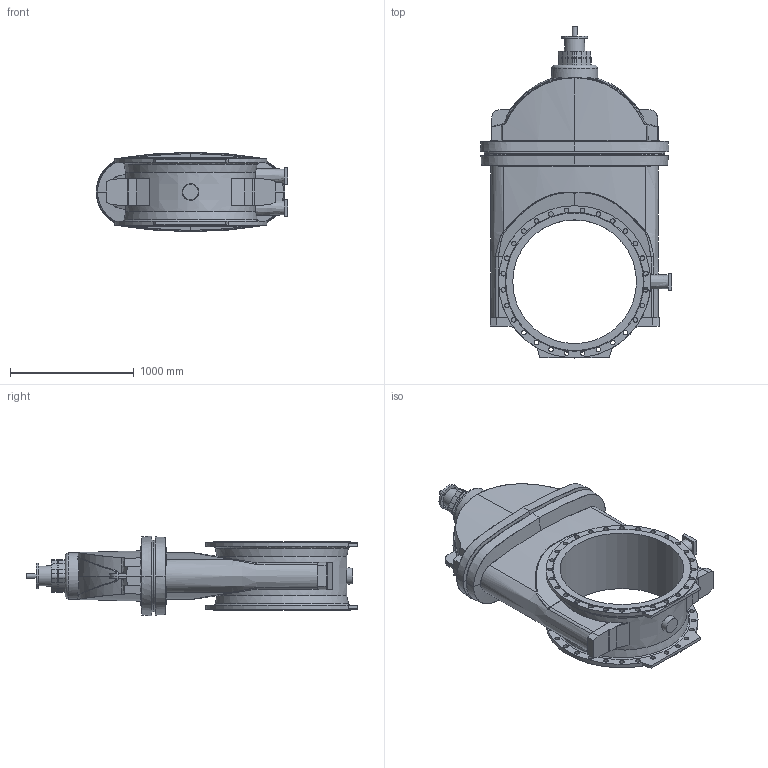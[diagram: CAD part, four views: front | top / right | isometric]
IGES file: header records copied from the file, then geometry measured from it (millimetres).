
Start section: SolidWorks IGES file using analytic representation for surfaces
Global section: file name: \\avksan2\techshare\PBM outline export from Enovia\O_06_30_DN1000_09043164_AA0.igs; native system: SolidWorks 2012; preprocessor: SolidWorks 2012; author: pbm; date: 180820.075203; units: millimetre
Bounding box: 1547.5 x 2682.25 x 642.5 mm (x, y, z)
Surface area: 10735251.3 mm2 (no closed solid volume)
Topology: 0 solids, 0 shells, 370 faces, 2042 edges, 1902 vertices
Faces by surface type: bspline 205, revolution 165
